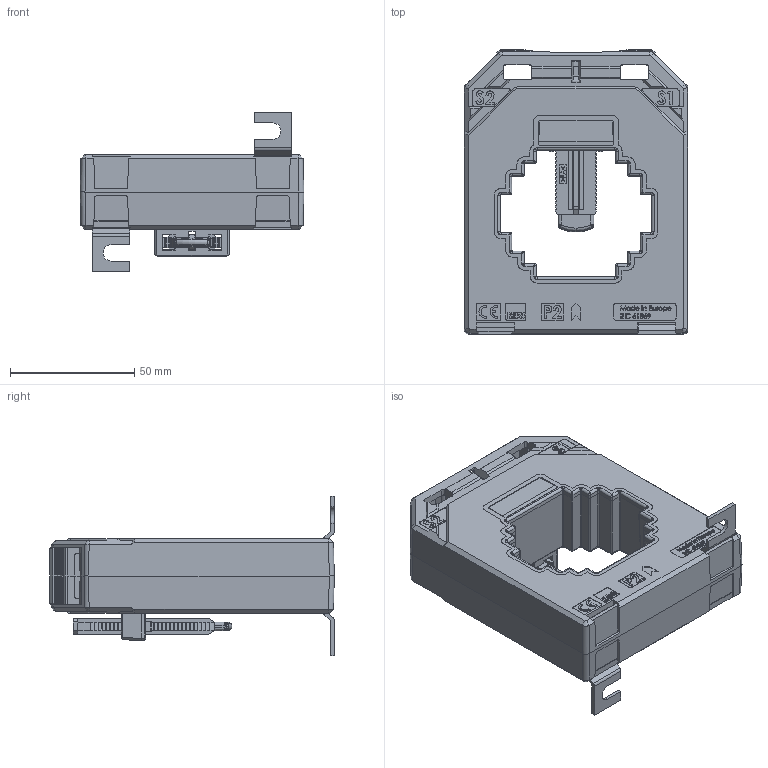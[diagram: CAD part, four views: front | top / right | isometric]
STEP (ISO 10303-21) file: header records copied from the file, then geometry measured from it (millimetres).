
FILE_DESCRIPTION (( 'STEP AP214' ), '1' );
FILE_NAME ('_ASK615.3_kpl_2024-09-09.STEP', '2024-09-09T14:49:17', ( '' ), ( '' ), 'SwSTEP 2.0', 'SolidWorks 2022', '' );
FILE_SCHEMA (( 'AUTOMOTIVE_DESIGN' ));
Length unit declared in the file: millimetre
Products named in the file (1): _ASK615.3_kpl_2024-09-09
Bounding box: 90 x 114.4 x 64 mm (x, y, z)
Volume: 208865.1 mm3; surface area: 61730.8 mm2
Topology: 8 solids, 10 shells, 2794 faces, 7594 edges, 4925 vertices
Faces by surface type: plane 1790, bspline 590, cylinder 312, cone 90, sphere 11, torus 1
Entity records: 146384 total; most frequent: CARTESIAN_POINT 50763, ORIENTED_EDGE 15132, DIRECTION 10736, EDGE_CURVE 7566, LINE 5456, VECTOR 5456, VERTEX_POINT 4925, EDGE_LOOP 2957
